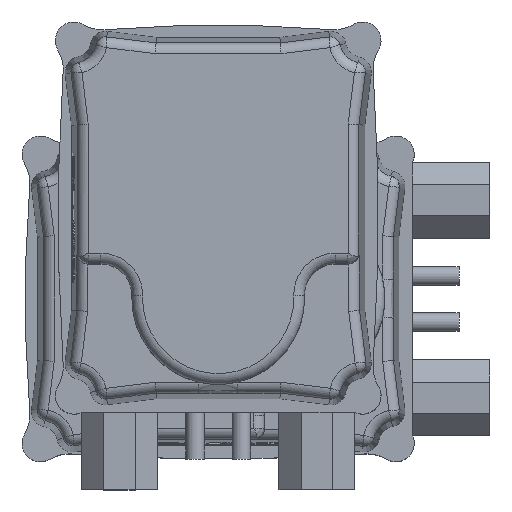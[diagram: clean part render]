
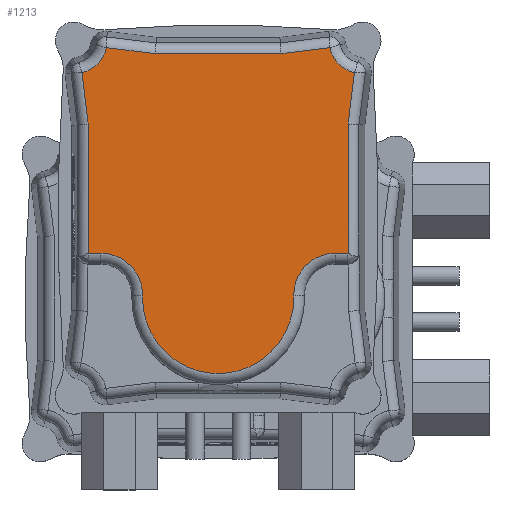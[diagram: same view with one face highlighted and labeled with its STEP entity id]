
A CAD part, top view. The second image highlights one B-rep face of the part: STEP entity #1213.
In plain terms, the highlighted planar face has unit normal (0, 0, 1).
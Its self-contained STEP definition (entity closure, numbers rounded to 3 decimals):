
#1213 = ADVANCED_FACE( '', ( #2887 ), #2888, .T. );
#2887 = FACE_OUTER_BOUND( '', #7645, .T. );
#2888 = PLANE( '', #7646 );
#7645 = EDGE_LOOP( '', ( #13950, #13951, #13952, #13953, #13954, #13955, #13956, #13957, #13958, #13959, #13960, #13961, #13962, #13963, #13964, #13965 ) );
#7646 = AXIS2_PLACEMENT_3D( '', #13966, #13967, #13968 );
#13950 = ORIENTED_EDGE( '', *, *, #18759, .T. );
#13951 = ORIENTED_EDGE( '', *, *, #18116, .T. );
#13952 = ORIENTED_EDGE( '', *, *, #18669, .T. );
#13953 = ORIENTED_EDGE( '', *, *, #18760, .T. );
#13954 = ORIENTED_EDGE( '', *, *, #18761, .T. );
#13955 = ORIENTED_EDGE( '', *, *, #17890, .T. );
#13956 = ORIENTED_EDGE( '', *, *, #18232, .T. );
#13957 = ORIENTED_EDGE( '', *, *, #18762, .T. );
#13958 = ORIENTED_EDGE( '', *, *, #18763, .T. );
#13959 = ORIENTED_EDGE( '', *, *, #18764, .T. );
#13960 = ORIENTED_EDGE( '', *, *, #18765, .T. );
#13961 = ORIENTED_EDGE( '', *, *, #18766, .T. );
#13962 = ORIENTED_EDGE( '', *, *, #18767, .T. );
#13963 = ORIENTED_EDGE( '', *, *, #18768, .T. );
#13964 = ORIENTED_EDGE( '', *, *, #17794, .T. );
#13965 = ORIENTED_EDGE( '', *, *, #18769, .T. );
#13966 = CARTESIAN_POINT( '', ( 47.227, -44.578, 84. ) );
#13967 = DIRECTION( '', ( 0., 0., 1. ) );
#13968 = DIRECTION( '', ( 1., 0., 0. ) );
#17794 = EDGE_CURVE( '', #20245, #20250, #20252, .F. );
#17890 = EDGE_CURVE( '', #20413, #20411, #20414, .T. );
#18116 = EDGE_CURVE( '', #20777, #20782, #20784, .T. );
#18232 = EDGE_CURVE( '', #20411, #20983, #20985, .T. );
#18669 = EDGE_CURVE( '', #20782, #21658, #21660, .F. );
#18759 = EDGE_CURVE( '', #21794, #20777, #21795, .T. );
#18760 = EDGE_CURVE( '', #21658, #21796, #21797, .T. );
#18761 = EDGE_CURVE( '', #21796, #20413, #21798, .T. );
#18762 = EDGE_CURVE( '', #20983, #21799, #21800, .F. );
#18763 = EDGE_CURVE( '', #21799, #21801, #21802, .T. );
#18764 = EDGE_CURVE( '', #21801, #21803, #21804, .F. );
#18765 = EDGE_CURVE( '', #21803, #21805, #21806, .T. );
#18766 = EDGE_CURVE( '', #21805, #21807, #21808, .T. );
#18767 = EDGE_CURVE( '', #21807, #21809, #21810, .T. );
#18768 = EDGE_CURVE( '', #21809, #20245, #21811, .T. );
#18769 = EDGE_CURVE( '', #20250, #21794, #21812, .T. );
#20245 = VERTEX_POINT( '', #24314 );
#20250 = VERTEX_POINT( '', #24338 );
#20252 = CIRCLE( '', #24361, 10.907 );
#20411 = VERTEX_POINT( '', #24740 );
#20413 = VERTEX_POINT( '', #24742 );
#20414 = CIRCLE( '', #24743, 0.5 );
#20777 = VERTEX_POINT( '', #25425 );
#20782 = VERTEX_POINT( '', #25431 );
#20784 = LINE( '', #25450, #25451 );
#20983 = VERTEX_POINT( '', #25949 );
#20985 = LINE( '', #25951, #25952 );
#21658 = VERTEX_POINT( '', #28516 );
#21660 = CIRCLE( '', #28537, 10.907 );
#21794 = VERTEX_POINT( '', #28727 );
#21795 = LINE( '', #28728, #28729 );
#21796 = VERTEX_POINT( '', #28730 );
#21797 = LINE( '', #28731, #28732 );
#21798 = LINE( '', #28733, #28734 );
#21799 = VERTEX_POINT( '', #28735 );
#21800 = CIRCLE( '', #28736, 13.5 );
#21801 = VERTEX_POINT( '', #28737 );
#21802 = CIRCLE( '', #28738, 24.5 );
#21803 = VERTEX_POINT( '', #28739 );
#21804 = CIRCLE( '', #28740, 13.5 );
#21805 = VERTEX_POINT( '', #28741 );
#21806 = LINE( '', #28742, #28743 );
#21807 = VERTEX_POINT( '', #28744 );
#21808 = CIRCLE( '', #28745, 0.5 );
#21809 = VERTEX_POINT( '', #28746 );
#21810 = LINE( '', #28747, #28748 );
#21811 = LINE( '', #28749, #28750 );
#21812 = LINE( '', #28751, #28752 );
#24314 = CARTESIAN_POINT( '', ( -46.913, 44.129, 84. ) );
#24338 = CARTESIAN_POINT( '', ( -55.033, 36.126, 84. ) );
#24361 = AXIS2_PLACEMENT_3D( '', #31673, #31674, #31675 );
#24740 = CARTESIAN_POINT( '', ( 11.5, -42., 84. ) );
#24742 = CARTESIAN_POINT( '', ( 11.491, -42.093, 84. ) );
#24743 = AXIS2_PLACEMENT_3D( '', #31773, #31774, #31775 );
#25425 = CARTESIAN_POINT( '', ( -53.093, -20.331, 84. ) );
#25431 = CARTESIAN_POINT( '', ( -55.033, -36.126, 84. ) );
#25450 = CARTESIAN_POINT( '', ( -54.536, -32.083, 84. ) );
#25451 = VECTOR( '', #32014, 1000. );
#25949 = CARTESIAN_POINT( '', ( 11.5, -37.987, 84. ) );
#25951 = CARTESIAN_POINT( '', ( 11.5, -44.578, 84. ) );
#25952 = VECTOR( '', #32151, 1000. );
#28516 = CARTESIAN_POINT( '', ( -46.913, -44.129, 84. ) );
#28537 = AXIS2_PLACEMENT_3D( '', #32465, #32466, #32467 );
#28727 = CARTESIAN_POINT( '', ( -53.093, 20.331, 84. ) );
#28728 = CARTESIAN_POINT( '', ( -53.093, -44.578, 84. ) );
#28729 = VECTOR( '', #32555, 1000. );
#28730 = CARTESIAN_POINT( '', ( -30.331, -42.093, 84. ) );
#28731 = CARTESIAN_POINT( '', ( 45.775, -32.749, 84. ) );
#28732 = VECTOR( '', #32556, 1000. );
#28733 = CARTESIAN_POINT( '', ( 47.227, -42.093, 84. ) );
#28734 = VECTOR( '', #32557, 1000. );
#28735 = CARTESIAN_POINT( '', ( 25.355, -24.492, 84. ) );
#28736 = AXIS2_PLACEMENT_3D( '', #32558, #32559, #32560 );
#28737 = CARTESIAN_POINT( '', ( 25.355, 24.492, 84. ) );
#28738 = AXIS2_PLACEMENT_3D( '', #32561, #32562, #32563 );
#28739 = CARTESIAN_POINT( '', ( 11.5, 37.987, 84. ) );
#28740 = AXIS2_PLACEMENT_3D( '', #32564, #32565, #32566 );
#28741 = CARTESIAN_POINT( '', ( 11.5, 42., 84. ) );
#28742 = CARTESIAN_POINT( '', ( 11.5, -44.578, 84. ) );
#28743 = VECTOR( '', #32567, 1000. );
#28744 = CARTESIAN_POINT( '', ( 11.491, 42.093, 84. ) );
#28745 = AXIS2_PLACEMENT_3D( '', #32568, #32569, #32570 );
#28746 = CARTESIAN_POINT( '', ( -30.331, 42.093, 84. ) );
#28747 = CARTESIAN_POINT( '', ( 47.227, 42.093, 84. ) );
#28748 = VECTOR( '', #32571, 1000. );
#28749 = CARTESIAN_POINT( '', ( 56.559, 31.425, 84. ) );
#28750 = VECTOR( '', #32572, 1000. );
#28751 = CARTESIAN_POINT( '', ( -43.752, -55.749, 84. ) );
#28752 = VECTOR( '', #32573, 1000. );
#31673 = CARTESIAN_POINT( '', ( -57.5, 46.75, 84. ) );
#31674 = DIRECTION( '', ( 0., 0., 1. ) );
#31675 = DIRECTION( '', ( 1., 0., 0. ) );
#31773 = CARTESIAN_POINT( '', ( 11., -42., 84. ) );
#31774 = DIRECTION( '', ( 0., 0., 1. ) );
#31775 = DIRECTION( '', ( 1., 0., 0. ) );
#32014 = DIRECTION( '', ( -0.122, -0.993, 0. ) );
#32151 = DIRECTION( '', ( 0., 1., 0. ) );
#32465 = CARTESIAN_POINT( '', ( -57.5, -46.75, 84. ) );
#32466 = DIRECTION( '', ( 0., 0., 1. ) );
#32467 = DIRECTION( '', ( 1., 0., 0. ) );
#32555 = DIRECTION( '', ( 0., -1., 0. ) );
#32556 = DIRECTION( '', ( 0.993, 0.122, 0. ) );
#32557 = DIRECTION( '', ( 1., 0., 0. ) );
#32558 = CARTESIAN_POINT( '', ( 25., -37.987, 84. ) );
#32559 = DIRECTION( '', ( 0., 0., 1. ) );
#32560 = DIRECTION( '', ( 1., 0., 0. ) );
#32561 = CARTESIAN_POINT( '', ( 26., 0., 84. ) );
#32562 = DIRECTION( '', ( 0., 0., 1. ) );
#32563 = DIRECTION( '', ( 1., 0., 0. ) );
#32564 = CARTESIAN_POINT( '', ( 25., 37.987, 84. ) );
#32565 = DIRECTION( '', ( 0., 0., 1. ) );
#32566 = DIRECTION( '', ( 1., 0., 0. ) );
#32567 = DIRECTION( '', ( 0., 1., 0. ) );
#32568 = CARTESIAN_POINT( '', ( 11., 42., 84. ) );
#32569 = DIRECTION( '', ( 0., 0., 1. ) );
#32570 = DIRECTION( '', ( 1., 0., 0. ) );
#32571 = DIRECTION( '', ( -1., 0., 0. ) );
#32572 = DIRECTION( '', ( -0.993, 0.122, 0. ) );
#32573 = DIRECTION( '', ( 0.122, -0.993, 0. ) );
